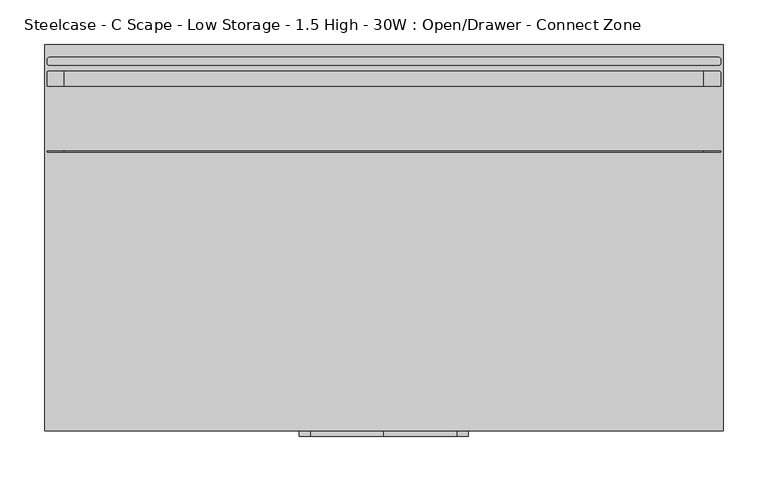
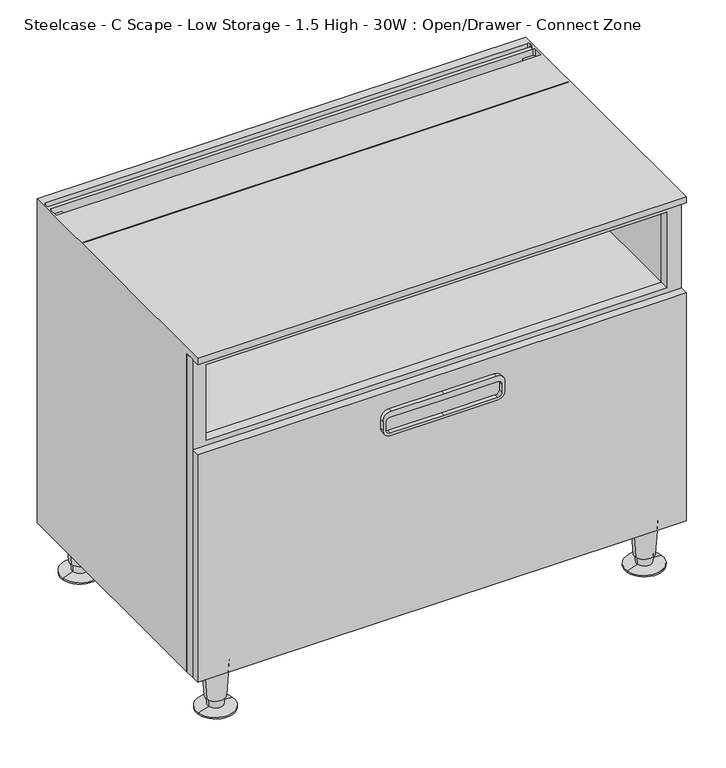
"""IFC4 building model written with IfcOpenShell, lengths in millimetres: furniture geometry, Steelcase - C Scape - Low Storage - 1.5 High - 30W : Open/Drawer - Connect Zone."""

from ifc_helpers import new_model, si_unit, point, frame, frame_2d, origin, place, context, project, spatial, polyline, circle_curve, trimmed, segment, composite_curve, outline, extrude, source, transform, mapped, element, save
from ifc_brep_helpers import plane_surface, cylinder_surface, revolved_surface, advanced_brep


def steelcase_c_scape_low_storage_1_5_high_30w_open_drawer_f43327ec(model_context):
    return source(origin(), model_context, "Body", "SolidModel", [
        extrude(outline(polyline([(599.4499291, 0.0), (76.2, 0.0), (76.2, 760.73), (599.4499291, 760.73), (599.4499291, 320.0585382), (599.4499291, 0.0)]), holes=[polyline([(458.7875121, 21.3382324), (582.9399291, 21.3382324), (582.9399291, 738.7617285), (458.7875121, 738.7617285), (458.7875121, 21.3382324)]), polyline([(436.841904, 21.3256814), (436.841904, 738.7617285), (92.7100024, 738.7617285), (92.7100024, 21.3256814), (436.841904, 21.3256814)])]), frame((0.0, -419.3540543, 0.0), z_axis=(0.0, 1.0, 0.0), x_axis=(0.0, 0.0, 1.0)), (0.0, 0.0, 1.0), 14.9860039),
        extrude(outline(composite_curve([segment(trimmed(circle_curve(frame_2d((409.5749879, 297.8147442)), 12.7), [point((422.2749879, 297.8147442))], [point((409.5749879, 285.1147442))], False, "CARTESIAN"), True, "CONTINUOUS"), segment(polyline([(409.5749879, 285.1147442), (394.970017, 285.1147442)]), True, "CONTINUOUS"), segment(trimmed(circle_curve(frame_2d((394.970017, 297.8147442)), 12.7), [point((394.970017, 285.1147442))], [point((382.270017, 297.8147442))], False, "CARTESIAN"), True, "CONTINUOUS"), segment(polyline([(382.270017, 297.8147442), (382.270017, 380.0475), (382.270017, 462.2802558)]), True, "CONTINUOUS"), segment(trimmed(circle_curve(frame_2d((394.970017, 462.2802558)), 12.7), [point((382.270017, 462.2802558))], [point((394.970017, 474.9802558))], False, "CARTESIAN"), True, "CONTINUOUS"), segment(polyline([(394.970017, 474.9802558), (409.5749879, 474.9802558)]), True, "CONTINUOUS"), segment(trimmed(circle_curve(frame_2d((409.5749879, 462.2802558)), 12.7), [point((409.5749879, 474.9802558))], [point((422.2749879, 462.2802558))], False, "CARTESIAN"), True, "CONTINUOUS"), segment(polyline([(422.2749879, 462.2802558), (422.2749879, 380.0475), (422.2749879, 297.8147442)]), True, "CONTINUOUS")], self_intersect=False), holes=[composite_curve([segment(trimmed(circle_curve(frame_2d((406.1460063, 296.2923565)), 6.35), [point((406.1460063, 289.9423565))], [point((412.4960063, 296.2923565))], True, "CARTESIAN"), True, "CONTINUOUS"), segment(polyline([(412.4960063, 296.2923565), (412.4960063, 380.0475), (412.4960063, 463.8026435)]), True, "CONTINUOUS"), segment(trimmed(circle_curve(frame_2d((406.1460063, 463.8026435)), 6.35), [point((412.4960063, 463.8026435))], [point((406.1460063, 470.1526435))], True, "CARTESIAN"), True, "CONTINUOUS"), segment(polyline([(406.1460063, 470.1526435), (393.4459942, 470.1526435)]), True, "CONTINUOUS"), segment(trimmed(circle_curve(frame_2d((393.4459942, 463.8026435)), 6.35), [point((393.4459942, 470.1526435))], [point((387.0959942, 463.8026435))], True, "CARTESIAN"), True, "CONTINUOUS"), segment(polyline([(387.0959942, 463.8026435), (387.0959942, 380.0475), (387.0959942, 296.2923565)]), True, "CONTINUOUS"), segment(trimmed(circle_curve(frame_2d((393.4459942, 296.2923565)), 6.35), [point((387.0959942, 296.2923565))], [point((393.4459942, 289.9423565))], True, "CARTESIAN"), True, "CONTINUOUS"), segment(polyline([(393.4459942, 289.9423565), (406.1460063, 289.9423565)]), True, "CONTINUOUS")], self_intersect=False)]), frame((0.0, -439.42, 0.0), z_axis=(0.0, 1.0, 0.0), x_axis=(0.0, 0.0, 1.0)), (0.0, 0.0, 1.0), 6.35),
        advanced_brep(
        [(65.5422821, -397.1702762, 76.2), (27.8805432, -402.9325174, 76.2), (46.7114126, -400.0513968, 76.2), (61.5919341, -397.774679, 19.05), (31.8308912, -402.3281146, 19.05), (59.1623471, -398.1464055, 19.05), (34.2604781, -401.9563882, 19.05), (58.4735776, -398.2517871, 5.7545598), (34.9492476, -401.8510065, 5.7545598), (75.8224611, -395.5974102, 2.5119506), (17.6003641, -404.5053834, 2.5119506), (75.8224611, -395.5974102, 0.0), (17.6003641, -404.5053834, 0.0), (46.7114126, -400.0513968, 0.0)],
        [
            (0, 1, circle_curve(frame((46.7114126, -400.0513968, 76.2), z_axis=(0.0, 0.0, 1.0), x_axis=(0.0, -1.0, 0.0)), 19.05)),
            (1, 2),
            (2, 0),
            (1, 0, circle_curve(frame((46.7114126, -400.0513968, 76.2), z_axis=(0.0, 0.0, 1.0), x_axis=(0.0, -1.0, 0.0)), 19.05)),
            (3, 4, circle_curve(frame((46.7114126, -400.0513968, 19.05), z_axis=(0.0, 0.0, 1.0), x_axis=(0.0, -1.0, 0.0)), 15.0536827)),
            (4, 1),
            (0, 3),
            (4, 3, circle_curve(frame((46.7114126, -400.0513968, 19.05), z_axis=(0.0, 0.0, 1.0), x_axis=(0.0, -1.0, 0.0)), 15.0536827)),
            (5, 6, circle_curve(frame((46.7114126, -400.0513968, 19.05), z_axis=(0.0, 0.0, 1.0), x_axis=(0.0, -1.0, 0.0)), 12.5958232)),
            (6, 4),
            (3, 5),
            (6, 5, circle_curve(frame((46.7114126, -400.0513968, 19.05), z_axis=(0.0, 0.0, 1.0), x_axis=(0.0, -1.0, 0.0)), 12.5958232)),
            (7, 8, circle_curve(frame((46.7114126, -400.0513968, 5.7545598), z_axis=(0.0, 0.0, 1.0), x_axis=(0.0, -1.0, 0.0)), 11.8990387)),
            (8, 6),
            (5, 7),
            (8, 7, circle_curve(frame((46.7114126, -400.0513968, 5.7545598), z_axis=(0.0, 0.0, 1.0), x_axis=(0.0, -1.0, 0.0)), 11.8990387)),
            (9, 10, circle_curve(frame((46.7114126, -400.0513968, 2.5119506), z_axis=(0.0, 0.0, 1.0), x_axis=(0.0, -1.0, 0.0)), 29.4498071)),
            (10, 8),
            (7, 9),
            (10, 9, circle_curve(frame((46.7114126, -400.0513968, 2.5119506), z_axis=(0.0, 0.0, 1.0), x_axis=(0.0, -1.0, 0.0)), 29.4498071)),
            (11, 12, circle_curve(frame((46.7114126, -400.0513968, 0.0), z_axis=(0.0, 0.0, 1.0), x_axis=(0.0, -1.0, 0.0)), 29.4498071)),
            (12, 10),
            (9, 11),
            (12, 11, circle_curve(frame((46.7114126, -400.0513968, 0.0), z_axis=(0.0, 0.0, 1.0), x_axis=(0.0, -1.0, 0.0)), 29.4498071)),
            (13, 12),
            (11, 13),
        ],
        [
            plane_surface(frame((46.7114126, -400.0513968, 76.2), z_axis=(0.0, 0.0, 1.0), x_axis=(0.0, -1.0, 0.0))),
            revolved_surface(polyline([(46.7114126, -419.1013968, 76.2), (46.7114126, -415.1050795, 19.05)]), (46.7114126, -400.0513968, 25.4), (0.0, 0.0, -1.0)),
            plane_surface(frame((46.7114126, -400.0513968, 19.05), z_axis=(0.0, 0.0, -1.0), x_axis=(0.0, -1.0, 0.0))),
            revolved_surface(polyline([(46.7114126, -412.64722, 19.05), (46.7114126, -411.9504355, 5.7545598)]), (46.7114126, -400.0513968, 25.4), (0.0, 0.0, -1.0)),
            revolved_surface(polyline([(46.7114126, -411.9504355, 5.7545598), (46.7114126, -429.5012039, 2.5119506)]), (46.7114126, -400.0513968, 25.4), (0.0, 0.0, -1.0)),
            cylinder_surface(frame((46.7114126, -400.0513968, 25.4), z_axis=(0.0, 0.0, -1.0), x_axis=(0.0, -1.0, 0.0)), 29.4498071),
            plane_surface(frame((46.7114126, -400.0513968, 0.0), z_axis=(0.0, 0.0, -1.0), x_axis=(0.0, -1.0, 0.0))),
        ],
        [
            (0, [[1, 2, 3]]),
            (0, [[4, -3, -2]]),
            (1, [[5, 6, -1, 7]]),
            (1, [[8, -7, -4, -6]]),
            (2, [[9, 10, -5, 11]]),
            (2, [[12, -11, -8, -10]]),
            (3, [[13, 14, -9, 15]]),
            (3, [[16, -15, -12, -14]]),
            (4, [[17, 18, -13, 19]]),
            (4, [[20, -19, -16, -18]]),
            (5, [[21, 22, -17, 23]]),
            (5, [[24, -23, -20, -22]]),
            (6, [[25, -21, 26]]),
            (6, [[-26, -24, -25]]),
        ],
    ),
        advanced_brep(
        [(733.4598695, -397.1702762, 76.2), (695.7981305, -402.9325174, 76.2), (714.629, -400.0513968, 76.2), (729.5095214, -397.774679, 19.05), (699.7484786, -402.3281146, 19.05), (727.0799345, -398.1464055, 19.05), (702.1780655, -401.9563882, 19.05), (726.391165, -398.2517871, 5.7545598), (702.866835, -401.8510065, 5.7545598), (743.7400485, -395.5974102, 2.5119506), (685.5179515, -404.5053834, 2.5119506), (743.7400485, -395.5974102, 0.0), (685.5179515, -404.5053834, 0.0), (714.629, -400.0513968, 0.0)],
        [
            (0, 1, circle_curve(frame((714.629, -400.0513968, 76.2), z_axis=(0.0, 0.0, 1.0), x_axis=(0.0, -1.0, 0.0)), 19.05)),
            (1, 2),
            (2, 0),
            (1, 0, circle_curve(frame((714.629, -400.0513968, 76.2), z_axis=(0.0, 0.0, 1.0), x_axis=(0.0, -1.0, 0.0)), 19.05)),
            (3, 4, circle_curve(frame((714.629, -400.0513968, 19.05), z_axis=(0.0, 0.0, 1.0), x_axis=(0.0, -1.0, 0.0)), 15.0536827)),
            (4, 1),
            (0, 3),
            (4, 3, circle_curve(frame((714.629, -400.0513968, 19.05), z_axis=(0.0, 0.0, 1.0), x_axis=(0.0, -1.0, 0.0)), 15.0536827)),
            (5, 6, circle_curve(frame((714.629, -400.0513968, 19.05), z_axis=(0.0, 0.0, 1.0), x_axis=(0.0, -1.0, 0.0)), 12.5958232)),
            (6, 4),
            (3, 5),
            (6, 5, circle_curve(frame((714.629, -400.0513968, 19.05), z_axis=(0.0, 0.0, 1.0), x_axis=(0.0, -1.0, 0.0)), 12.5958232)),
            (7, 8, circle_curve(frame((714.629, -400.0513968, 5.7545598), z_axis=(0.0, 0.0, 1.0), x_axis=(0.0, -1.0, 0.0)), 11.8990387)),
            (8, 6),
            (5, 7),
            (8, 7, circle_curve(frame((714.629, -400.0513968, 5.7545598), z_axis=(0.0, 0.0, 1.0), x_axis=(0.0, -1.0, 0.0)), 11.8990387)),
            (9, 10, circle_curve(frame((714.629, -400.0513968, 2.5119506), z_axis=(0.0, 0.0, 1.0), x_axis=(0.0, -1.0, 0.0)), 29.4498071)),
            (10, 8),
            (7, 9),
            (10, 9, circle_curve(frame((714.629, -400.0513968, 2.5119506), z_axis=(0.0, 0.0, 1.0), x_axis=(0.0, -1.0, 0.0)), 29.4498071)),
            (11, 12, circle_curve(frame((714.629, -400.0513968, 0.0), z_axis=(0.0, 0.0, 1.0), x_axis=(0.0, -1.0, 0.0)), 29.4498071)),
            (12, 10),
            (9, 11),
            (12, 11, circle_curve(frame((714.629, -400.0513968, 0.0), z_axis=(0.0, 0.0, 1.0), x_axis=(0.0, -1.0, 0.0)), 29.4498071)),
            (13, 12),
            (11, 13),
        ],
        [
            plane_surface(frame((714.629, -400.0513968, 76.2), z_axis=(0.0, 0.0, 1.0), x_axis=(0.0, -1.0, 0.0))),
            revolved_surface(polyline([(714.629, -419.1013968, 76.2), (714.629, -415.1050795, 19.05)]), (714.629, -400.0513968, 25.4), (0.0, 0.0, -1.0)),
            plane_surface(frame((714.629, -400.0513968, 19.05), z_axis=(0.0, 0.0, -1.0), x_axis=(0.0, -1.0, 0.0))),
            revolved_surface(polyline([(714.629, -412.64722, 19.05), (714.629, -411.9504355, 5.7545598)]), (714.629, -400.0513968, 25.4), (0.0, 0.0, -1.0)),
            revolved_surface(polyline([(714.629, -411.9504355, 5.7545598), (714.629, -429.5012039, 2.5119506)]), (714.629, -400.0513968, 25.4), (0.0, 0.0, -1.0)),
            cylinder_surface(frame((714.629, -400.0513968, 25.4), z_axis=(0.0, 0.0, -1.0), x_axis=(0.0, -1.0, 0.0)), 29.4498071),
            plane_surface(frame((714.629, -400.0513968, 0.0), z_axis=(0.0, 0.0, -1.0), x_axis=(0.0, -1.0, 0.0))),
        ],
        [
            (0, [[1, 2, 3]]),
            (0, [[4, -3, -2]]),
            (1, [[5, 6, -1, 7]]),
            (1, [[8, -7, -4, -6]]),
            (2, [[9, 10, -5, 11]]),
            (2, [[12, -11, -8, -10]]),
            (3, [[13, 14, -9, 15]]),
            (3, [[16, -15, -12, -14]]),
            (4, [[17, 18, -13, 19]]),
            (4, [[20, -19, -16, -18]]),
            (5, [[21, 22, -17, 23]]),
            (5, [[24, -23, -20, -22]]),
            (6, [[25, -21, 26]]),
            (6, [[-26, -24, -25]]),
        ],
    ),
        advanced_brep(
        [(733.4598695, -31.5218435, 76.2), (695.7981305, -37.2840847, 76.2), (714.629, -34.4029641, 76.2), (729.5095214, -32.1262463, 19.05), (699.7484786, -36.6796819, 19.05), (727.0799345, -32.4979728, 19.05), (702.1780655, -36.3079555, 19.05), (726.391165, -32.6033544, 5.7545598), (702.866835, -36.2025738, 5.7545598), (743.7400485, -29.9489775, 2.5119506), (685.5179515, -38.8569507, 2.5119506), (743.7400485, -29.9489775, 0.0), (685.5179515, -38.8569507, 0.0), (714.629, -34.4029641, 0.0)],
        [
            (0, 1, circle_curve(frame((714.629, -34.4029641, 76.2), z_axis=(0.0, 0.0, 1.0), x_axis=(0.0, -1.0, 0.0)), 19.05)),
            (1, 2),
            (2, 0),
            (1, 0, circle_curve(frame((714.629, -34.4029641, 76.2), z_axis=(0.0, 0.0, 1.0), x_axis=(0.0, -1.0, 0.0)), 19.05)),
            (3, 4, circle_curve(frame((714.629, -34.4029641, 19.05), z_axis=(0.0, 0.0, 1.0), x_axis=(0.0, -1.0, 0.0)), 15.0536827)),
            (4, 1),
            (0, 3),
            (4, 3, circle_curve(frame((714.629, -34.4029641, 19.05), z_axis=(0.0, 0.0, 1.0), x_axis=(0.0, -1.0, 0.0)), 15.0536827)),
            (5, 6, circle_curve(frame((714.629, -34.4029641, 19.05), z_axis=(0.0, 0.0, 1.0), x_axis=(0.0, -1.0, 0.0)), 12.5958232)),
            (6, 4),
            (3, 5),
            (6, 5, circle_curve(frame((714.629, -34.4029641, 19.05), z_axis=(0.0, 0.0, 1.0), x_axis=(0.0, -1.0, 0.0)), 12.5958232)),
            (7, 8, circle_curve(frame((714.629, -34.4029641, 5.7545598), z_axis=(0.0, 0.0, 1.0), x_axis=(0.0, -1.0, 0.0)), 11.8990387)),
            (8, 6),
            (5, 7),
            (8, 7, circle_curve(frame((714.629, -34.4029641, 5.7545598), z_axis=(0.0, 0.0, 1.0), x_axis=(0.0, -1.0, 0.0)), 11.8990387)),
            (9, 10, circle_curve(frame((714.629, -34.4029641, 2.5119506), z_axis=(0.0, 0.0, 1.0), x_axis=(0.0, -1.0, 0.0)), 29.4498071)),
            (10, 8),
            (7, 9),
            (10, 9, circle_curve(frame((714.629, -34.4029641, 2.5119506), z_axis=(0.0, 0.0, 1.0), x_axis=(0.0, -1.0, 0.0)), 29.4498071)),
            (11, 12, circle_curve(frame((714.629, -34.4029641, 0.0), z_axis=(0.0, 0.0, 1.0), x_axis=(0.0, -1.0, 0.0)), 29.4498071)),
            (12, 10),
            (9, 11),
            (12, 11, circle_curve(frame((714.629, -34.4029641, 0.0), z_axis=(0.0, 0.0, 1.0), x_axis=(0.0, -1.0, 0.0)), 29.4498071)),
            (13, 12),
            (11, 13),
        ],
        [
            plane_surface(frame((714.629, -34.4029641, 76.2), z_axis=(0.0, 0.0, 1.0), x_axis=(0.0, -1.0, 0.0))),
            revolved_surface(polyline([(714.629, -53.4529641, 76.2), (714.629, -49.4566468, 19.05)]), (714.629, -34.4029641, 25.4), (0.0, 0.0, -1.0)),
            plane_surface(frame((714.629, -34.4029641, 19.05), z_axis=(0.0, 0.0, -1.0), x_axis=(0.0, -1.0, 0.0))),
            revolved_surface(polyline([(714.629, -46.9987873, 19.05), (714.629, -46.3020028, 5.7545598)]), (714.629, -34.4029641, 25.4), (0.0, 0.0, -1.0)),
            revolved_surface(polyline([(714.629, -46.3020028, 5.7545598), (714.629, -63.8527712, 2.5119506)]), (714.629, -34.4029641, 25.4), (0.0, 0.0, -1.0)),
            cylinder_surface(frame((714.629, -34.4029641, 25.4), z_axis=(0.0, 0.0, -1.0), x_axis=(0.0, -1.0, 0.0)), 29.4498071),
            plane_surface(frame((714.629, -34.4029641, 0.0), z_axis=(0.0, 0.0, -1.0), x_axis=(0.0, -1.0, 0.0))),
        ],
        [
            (0, [[1, 2, 3]]),
            (0, [[4, -3, -2]]),
            (1, [[5, 6, -1, 7]]),
            (1, [[8, -7, -4, -6]]),
            (2, [[9, 10, -5, 11]]),
            (2, [[12, -11, -8, -10]]),
            (3, [[13, 14, -9, 15]]),
            (3, [[16, -15, -12, -14]]),
            (4, [[17, 18, -13, 19]]),
            (4, [[20, -19, -16, -18]]),
            (5, [[21, 22, -17, 23]]),
            (5, [[24, -23, -20, -22]]),
            (6, [[25, -21, 26]]),
            (6, [[-26, -24, -25]]),
        ],
    ),
        advanced_brep(
        [(65.5422821, -31.5218435, 76.2), (27.8805432, -37.2840847, 76.2), (46.7114126, -34.4029641, 76.2), (61.5919341, -32.1262463, 19.05), (31.8308912, -36.6796819, 19.05), (59.1623471, -32.4979728, 19.05), (34.2604781, -36.3079555, 19.05), (58.4735776, -32.6033544, 5.7545598), (34.9492476, -36.2025738, 5.7545598), (75.8224611, -29.9489775, 2.5119506), (17.6003641, -38.8569507, 2.5119506), (75.8224611, -29.9489775, 0.0), (17.6003641, -38.8569507, 0.0), (46.7114126, -34.4029641, 0.0)],
        [
            (0, 1, circle_curve(frame((46.7114126, -34.4029641, 76.2), z_axis=(0.0, 0.0, 1.0), x_axis=(0.0, -1.0, 0.0)), 19.05)),
            (1, 2),
            (2, 0),
            (1, 0, circle_curve(frame((46.7114126, -34.4029641, 76.2), z_axis=(0.0, 0.0, 1.0), x_axis=(0.0, -1.0, 0.0)), 19.05)),
            (3, 4, circle_curve(frame((46.7114126, -34.4029641, 19.05), z_axis=(0.0, 0.0, 1.0), x_axis=(0.0, -1.0, 0.0)), 15.0536827)),
            (4, 1),
            (0, 3),
            (4, 3, circle_curve(frame((46.7114126, -34.4029641, 19.05), z_axis=(0.0, 0.0, 1.0), x_axis=(0.0, -1.0, 0.0)), 15.0536827)),
            (5, 6, circle_curve(frame((46.7114126, -34.4029641, 19.05), z_axis=(0.0, 0.0, 1.0), x_axis=(0.0, -1.0, 0.0)), 12.5958232)),
            (6, 4),
            (3, 5),
            (6, 5, circle_curve(frame((46.7114126, -34.4029641, 19.05), z_axis=(0.0, 0.0, 1.0), x_axis=(0.0, -1.0, 0.0)), 12.5958232)),
            (7, 8, circle_curve(frame((46.7114126, -34.4029641, 5.7545598), z_axis=(0.0, 0.0, 1.0), x_axis=(0.0, -1.0, 0.0)), 11.8990387)),
            (8, 6),
            (5, 7),
            (8, 7, circle_curve(frame((46.7114126, -34.4029641, 5.7545598), z_axis=(0.0, 0.0, 1.0), x_axis=(0.0, -1.0, 0.0)), 11.8990387)),
            (9, 10, circle_curve(frame((46.7114126, -34.4029641, 2.5119506), z_axis=(0.0, 0.0, 1.0), x_axis=(0.0, -1.0, 0.0)), 29.4498071)),
            (10, 8),
            (7, 9),
            (10, 9, circle_curve(frame((46.7114126, -34.4029641, 2.5119506), z_axis=(0.0, 0.0, 1.0), x_axis=(0.0, -1.0, 0.0)), 29.4498071)),
            (11, 12, circle_curve(frame((46.7114126, -34.4029641, 0.0), z_axis=(0.0, 0.0, 1.0), x_axis=(0.0, -1.0, 0.0)), 29.4498071)),
            (12, 10),
            (9, 11),
            (12, 11, circle_curve(frame((46.7114126, -34.4029641, 0.0), z_axis=(0.0, 0.0, 1.0), x_axis=(0.0, -1.0, 0.0)), 29.4498071)),
            (13, 12),
            (11, 13),
        ],
        [
            plane_surface(frame((46.7114126, -34.4029641, 76.2), z_axis=(0.0, 0.0, 1.0), x_axis=(0.0, -1.0, 0.0))),
            revolved_surface(polyline([(46.7114126, -53.4529641, 76.2), (46.7114126, -49.4566468, 19.05)]), (46.7114126, -34.4029641, 25.4), (0.0, 0.0, -1.0)),
            plane_surface(frame((46.7114126, -34.4029641, 19.05), z_axis=(0.0, 0.0, -1.0), x_axis=(0.0, -1.0, 0.0))),
            revolved_surface(polyline([(46.7114126, -46.9987873, 19.05), (46.7114126, -46.3020028, 5.7545598)]), (46.7114126, -34.4029641, 25.4), (0.0, 0.0, -1.0)),
            revolved_surface(polyline([(46.7114126, -46.3020028, 5.7545598), (46.7114126, -63.8527712, 2.5119506)]), (46.7114126, -34.4029641, 25.4), (0.0, 0.0, -1.0)),
            cylinder_surface(frame((46.7114126, -34.4029641, 25.4), z_axis=(0.0, 0.0, -1.0), x_axis=(0.0, -1.0, 0.0)), 29.4498071),
            plane_surface(frame((46.7114126, -34.4029641, 0.0), z_axis=(0.0, 0.0, -1.0), x_axis=(0.0, -1.0, 0.0))),
        ],
        [
            (0, [[1, 2, 3]]),
            (0, [[4, -3, -2]]),
            (1, [[5, 6, -1, 7]]),
            (1, [[8, -7, -4, -6]]),
            (2, [[9, 10, -5, 11]]),
            (2, [[12, -11, -8, -10]]),
            (3, [[13, 14, -9, 15]]),
            (3, [[16, -15, -12, -14]]),
            (4, [[17, 18, -13, 19]]),
            (4, [[20, -19, -16, -18]]),
            (5, [[21, 22, -17, 23]]),
            (5, [[24, -23, -20, -22]]),
            (6, [[25, -21, 26]]),
            (6, [[-26, -24, -25]]),
        ],
    ),
        advanced_brep(
        [(757.9272317, -120.6444193, 609.6), (757.9272317, -119.3775195, 609.6), (757.9272317, -119.3775195, 599.4499291), (757.9272317, -120.6444193, 599.4499291), (757.9272317, -46.4703418, 609.6), (757.9272317, -32.274699, 609.6), (757.9272317, -32.274699, 599.4499291), (757.9272317, -46.4703418, 599.4499291), (757.9272317, -20.3138654, 609.6), (757.9272317, -17.0388453, 609.6), (757.9272317, -17.0388453, 599.4499291), (757.9272317, -20.3138654, 599.4499291), (760.73, 0.0055807, 609.6), (760.73, -433.07, 609.6), (760.73, -433.07, 599.4499291), (760.73, -404.3680504, 599.4499291), (760.73, -404.3680504, 76.2), (760.73, 0.0, 76.2), (0.0, -433.07, 609.6), (-0.012551, 0.0055807, 609.6), (755.2308823, -29.5783496, 609.6), (2.7826272, -46.4703418, 609.6), (2.7826272, -32.0458511, 609.6), (5.2501287, -29.5783496, 609.6), (754.9507358, -23.2903613, 609.6), (5.5670648, -23.2903613, 609.6), (2.7826272, -20.5059237, 609.6), (2.7826272, -17.0388453, 609.6), (5.4794022, -14.3420703, 609.6), (755.2304567, -14.3420703, 609.6), (2.7826272, -119.3775195, 609.6), (2.7826272, -120.6444193, 609.6), (0.0, 0.0055807, 76.2), (495.6775189, 0.0055807, 466.2677968), (264.4174811, 0.0055807, 466.2677968), (264.4174811, 0.0055807, 432.6382043), (380.0475, 0.0055807, 432.6382043), (495.6775189, 0.0055807, 432.6382043), (495.6775189, -9.5194193, 466.2677968), (264.4174811, -9.5194193, 466.2677968), (495.6775189, -9.5194193, 450.8499879), (264.4174811, -9.5194193, 450.8499879), (5.2501287, -29.5783496, 599.4499291), (21.3256814, -29.5783496, 599.4499291), (21.3256814, -29.5783496, 458.7875121), (738.7491775, -29.5783496, 458.7875121), (738.7491775, -29.5783496, 599.4499291), (755.2308823, -29.5783496, 599.4499291), (738.7491775, -119.3775195, 599.4499291), (21.3256814, -119.3775195, 599.4499291), (21.3256814, -46.4703418, 599.4499291), (738.7491775, -46.4703418, 599.4499291), (754.9507358, -23.2903613, 599.4499291), (5.5670648, -23.2903613, 599.4499291), (2.7826272, -20.5059237, 599.4499291), (2.7826272, -32.0458511, 599.4499291), (2.7826272, -46.4703418, 599.4499291), (2.7826272, -119.3775195, 599.4499291), (5.4794022, -14.3420703, 599.4499291), (755.2304567, -14.3420703, 599.4499291), (2.7826272, -17.0388453, 599.4499291), (21.3256814, -120.6444193, 599.4499291), (2.7826272, -120.6444193, 599.4499291), (738.7491775, -120.6444193, 599.4499291), (21.3256814, -404.3680504, 92.7100024), (738.7491775, -404.3680504, 92.7100024), (738.7491775, -9.5194193, 92.7100024), (21.3256814, -9.5194193, 92.7100024), (0.0, -404.3680504, 76.2), (0.0, -404.3680504, 599.4499291), (0.0, -433.07, 599.4499291), (738.7491775, -404.3680504, 599.4499291), (738.7491775, -404.3680504, 458.7875121), (21.3256814, -404.3680504, 458.7875121), (21.3256814, -404.3680504, 599.4499291), (21.3256814, -404.3680504, 450.8499879), (738.7491775, -404.3680504, 450.8499879), (21.3256814, -126.9863574, 599.4499291), (738.7491775, -126.9863574, 599.4499291), (21.3256814, -126.9863574, 458.7875121), (738.7491775, -126.9863574, 458.7875121), (738.7491775, -120.6444193, 458.7875121), (21.3256814, -120.6444193, 458.7875121), (21.3256814, -9.5194193, 450.8499879), (738.7491775, -9.5194193, 450.8499879), (495.6775189, -9.5194193, 432.6382043), (380.0475, -9.5194193, 432.6382043), (264.4174811, -9.5194193, 432.6382043)],
        [
            (0, 1),
            (1, 2),
            (2, 3),
            (3, 0),
            (4, 5),
            (5, 6),
            (6, 7),
            (7, 4),
            (8, 9),
            (9, 10),
            (10, 11),
            (11, 8),
            (12, 13),
            (13, 14),
            (14, 15),
            (15, 16),
            (16, 17),
            (17, 12),
            (18, 13),
            (12, 19),
            (19, 18),
            (20, 5, circle_curve(frame((755.2308823, -32.274699, 609.6), z_axis=(0.0, 0.0, -1.0), x_axis=(1.0, 0.0, 0.0)), 2.6963494)),
            (4, 21),
            (21, 22),
            (22, 23, circle_curve(frame((5.2501287, -32.0458511, 609.6), z_axis=(0.0, 0.0, -1.0), x_axis=(1.0, 0.0, 0.0)), 2.4675015)),
            (23, 20),
            (8, 24, circle_curve(frame((754.9507358, -20.3138654, 609.6), z_axis=(0.0, 0.0, -1.0), x_axis=(1.0, 0.0, 0.0)), 2.9764959)),
            (24, 25),
            (25, 26, circle_curve(frame((5.5670648, -20.5059237, 609.6), z_axis=(0.0, 0.0, -1.0), x_axis=(1.0, 0.0, 0.0)), 2.7844376)),
            (26, 27),
            (27, 28, circle_curve(frame((5.4794022, -17.0388453, 609.6), z_axis=(0.0, 0.0, -1.0), x_axis=(1.0, 0.0, 0.0)), 2.696775)),
            (28, 29),
            (29, 9, circle_curve(frame((755.2304567, -17.0388453, 609.6), z_axis=(0.0, 0.0, -1.0), x_axis=(1.0, 0.0, 0.0)), 2.696775)),
            (30, 1),
            (0, 31),
            (31, 30),
            (17, 32),
            (32, 19),
            (33, 34),
            (34, 35),
            (35, 36),
            (36, 37),
            (37, 33),
            (33, 38),
            (38, 39),
            (39, 34),
            (38, 40),
            (40, 41),
            (41, 39),
            (23, 42),
            (42, 43),
            (43, 44),
            (44, 45),
            (45, 46),
            (46, 47),
            (47, 20),
            (48, 49),
            (49, 50),
            (50, 51),
            (51, 48),
            (47, 6, circle_curve(frame((755.2308823, -32.274699, 599.4499291), z_axis=(0.0, 0.0, -1.0), x_axis=(1.0, 0.0, 0.0)), 2.6963494)),
            (11, 52, circle_curve(frame((754.9507358, -20.3138654, 599.4499291), z_axis=(0.0, 0.0, -1.0), x_axis=(1.0, 0.0, 0.0)), 2.9764959)),
            (52, 24),
            (52, 53),
            (53, 25),
            (53, 54, circle_curve(frame((5.5670648, -20.5059237, 599.4499291), z_axis=(0.0, 0.0, -1.0), x_axis=(1.0, 0.0, 0.0)), 2.7844376)),
            (54, 26),
            (22, 55),
            (55, 42, circle_curve(frame((5.2501287, -32.0458511, 599.4499291), z_axis=(0.0, 0.0, -1.0), x_axis=(1.0, 0.0, 0.0)), 2.4675015)),
            (7, 51),
            (50, 56),
            (56, 21),
            (30, 57),
            (57, 49),
            (48, 2),
            (28, 58),
            (58, 59),
            (59, 29),
            (59, 10, circle_curve(frame((755.2304567, -17.0388453, 599.4499291), z_axis=(0.0, 0.0, -1.0), x_axis=(1.0, 0.0, 0.0)), 2.696775)),
            (27, 60),
            (60, 58, circle_curve(frame((5.4794022, -17.0388453, 599.4499291), z_axis=(0.0, 0.0, -1.0), x_axis=(1.0, 0.0, 0.0)), 2.696775)),
            (61, 49),
            (57, 62),
            (62, 61),
            (48, 63),
            (63, 3),
            (60, 54),
            (50, 43),
            (55, 56),
            (46, 51),
            (64, 65),
            (65, 66),
            (66, 67),
            (67, 64),
            (16, 68),
            (68, 32),
            (68, 69),
            (69, 70),
            (70, 18),
            (15, 71),
            (71, 72),
            (72, 73),
            (73, 74),
            (74, 69),
            (64, 75),
            (75, 76),
            (76, 65),
            (70, 14),
            (74, 77),
            (77, 78),
            (78, 71),
            (77, 79),
            (79, 80),
            (80, 78),
            (63, 81),
            (81, 82),
            (82, 61),
            (62, 31),
            (44, 82),
            (81, 45),
            (79, 73),
            (72, 80),
            (75, 83),
            (83, 41),
            (40, 84),
            (84, 76),
            (67, 83),
            (84, 66),
            (85, 86),
            (86, 87),
            (87, 41),
            (40, 85),
            (37, 85),
            (36, 86),
            (35, 87),
        ],
        [
            plane_surface(frame((757.9272317, -120.6444193, 609.6), z_axis=(-1.0, 0.0, 0.0), x_axis=(0.0, -1.4185860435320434e-12, 1.0))),
            plane_surface(frame((760.73, -120.6444193, 609.6), z_axis=(1.0, 0.0, 0.0), x_axis=(0.0, 1.4185860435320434e-12, -1.0))),
            plane_surface(frame((757.9272317, -120.6444193, 609.6), z_axis=(0.0, 0.0, 1.0), x_axis=(1.0, 0.0, 0.0))),
            plane_surface(frame((757.9272317, 0.0055807, 609.6), z_axis=(0.0, 1.0, 0.0), x_axis=(1.0, 0.0, 0.0))),
            plane_surface(frame((757.9272317, 0.0055807, 466.2677968), z_axis=(0.0, 0.0, -1.0), x_axis=(1.0, 0.0, 0.0))),
            plane_surface(frame((757.9272317, -9.5194193, 466.2677968), z_axis=(0.0, 1.0, 0.0), x_axis=(1.0, 0.0, 0.0))),
            plane_surface(frame((757.9272317, -29.5783496, 458.7875121), z_axis=(0.0, -1.0, 0.0), x_axis=(1.0, 0.0, 0.0))),
            plane_surface(frame((757.9272317, -29.5783496, 599.4499291), z_axis=(0.0, 0.0, -1.0), x_axis=(1.0, 0.0, 0.0))),
            revolved_surface(polyline([(757.9272317, -32.274699, 599.4499291), (757.9272317, -32.274699, 609.6)]), (755.2308823, -32.274699, 599.4499291), (0.0, 0.0, -1.0)),
            revolved_surface(polyline([(757.9272317, -20.3138654, 599.4499291), (757.9272317, -20.3138654, 609.6)]), (754.9507358, -20.3138654, 599.4499291), (0.0, 0.0, -1.0)),
            plane_surface(frame((754.9507358, -23.2903613, 609.6), z_axis=(0.0, 1.0, 0.0), x_axis=(0.0, 0.0, -1.0))),
            revolved_surface(polyline([(8.3515024, -20.5059237, 599.4499291), (8.3515024, -20.5059237, 609.6)]), (5.5670648, -20.5059237, 599.4499291), (0.0, 0.0, -1.0)),
            revolved_surface(polyline([(7.7176302, -32.0458511, 599.4499291), (7.7176302, -32.0458511, 609.6)]), (5.2501287, -32.0458511, 599.4499291), (0.0, 0.0, -1.0)),
            plane_surface(frame((757.9272317, -46.4703418, 609.6), z_axis=(0.0, 1.0, 0.0), x_axis=(0.0, 0.0, -1.0))),
            plane_surface(frame((2.7826272, -119.3775195, 609.6), z_axis=(0.0, -1.0, 0.0), x_axis=(0.0, 0.0, -1.0))),
            plane_surface(frame((5.4794022, -14.3420703, 609.6), z_axis=(0.0, -1.0, 0.0), x_axis=(0.0, 0.0, -1.0))),
            revolved_surface(polyline([(757.9272317, -17.0388453, 599.4499291), (757.9272317, -17.0388453, 609.6)]), (755.2304567, -17.0388453, 41.6295811), (0.0, 0.0, -1.0)),
            revolved_surface(polyline([(8.1761772, -17.0388453, 599.4499291), (8.1761772, -17.0388453, 609.6)]), (5.4794022, -17.0388453, 41.6295811), (0.0, 0.0, -1.0)),
            plane_surface(frame((757.9272317, 0.0055807, 599.4499291), z_axis=(0.0, 0.0, 1.0), x_axis=(-1.0, 0.0, 0.0))),
            plane_surface(frame((0.0, 0.0, 92.7100024), z_axis=(0.0, 0.0, 1.0), x_axis=(-1.0, 0.0, 0.0))),
            plane_surface(frame((0.0, 0.0, 76.2), z_axis=(0.0, 0.0, -1.0), x_axis=(1.0, 0.0, 0.0))),
            plane_surface(frame((0.0, 0.0, 92.7100024), z_axis=(-1.0, 0.0, 0.0), x_axis=(0.0, 0.0, -1.0))),
            plane_surface(frame((0.0, -404.3680504, 92.7100024), z_axis=(0.0, -1.0, 0.0), x_axis=(0.0, 0.0, -1.0))),
            plane_surface(frame((760.73, -433.07, 609.6), z_axis=(0.0, -1.0, 0.0), x_axis=(-1.0, 0.0, 0.0))),
            plane_surface(frame((760.73, -433.07, 599.4499291), z_axis=(0.0, 0.0, -1.0), x_axis=(-1.0, 0.0, 0.0))),
            plane_surface(frame((760.73, -126.9863574, 599.4499291), z_axis=(0.0, -1.0, 0.0), x_axis=(-1.0, 0.0, 0.0))),
            plane_surface(frame((760.73, -120.6444193, 457.1999955), z_axis=(0.0, 1.0, 0.0), x_axis=(-1.0, 0.0, 0.0))),
            plane_surface(frame((0.0, -9.5194193, 458.7875121), z_axis=(0.0, 0.0, 1.0), x_axis=(-1.0, 0.0, 0.0))),
            plane_surface(frame((0.0, -9.5194193, 450.8499879), z_axis=(0.0, 0.0, -1.0), x_axis=(1.0, 0.0, 0.0))),
            plane_surface(frame((21.3256814, -404.3680504, 599.4499291), z_axis=(1.0, 0.0, 0.0), x_axis=(0.0, 0.0, -1.0))),
            plane_surface(frame((738.7491775, -9.5194193, 599.4499291), z_axis=(-1.0, 0.0, 0.0), x_axis=(0.0, 0.0, -1.0))),
            plane_surface(frame((2.7826272, -120.6444193, 599.4499291), z_axis=(1.0, 0.0, 0.0), x_axis=(0.0, 1.0, 0.0))),
            plane_surface(frame((495.6775189, -9.5194193, 459.9177968), z_axis=(0.0, -1.0, 0.0), x_axis=(0.0, 0.0, -1.0))),
            plane_surface(frame((495.6775189, -9.5194193, 466.2677968), z_axis=(-1.0, 0.0, 0.0), x_axis=(0.0, 1.0, 0.0))),
            plane_surface(frame((495.6775189, -9.5194193, 432.6382043), z_axis=(0.0, 0.0, 1.0), x_axis=(0.0, 1.0, 0.0))),
            plane_surface(frame((380.0475, -9.5194193, 432.6382043), z_axis=(0.0, 0.0, 1.0), x_axis=(0.0, 1.0, 0.0))),
            plane_surface(frame((264.4174811, -9.5194193, 432.6382043), z_axis=(1.0, 0.0, 0.0), x_axis=(0.0, 1.0, 0.0))),
        ],
        [
            (0, [[1, 2, 3, 4]]),
            (0, [[5, 6, 7, 8]]),
            (0, [[9, 10, 11, 12]]),
            (1, [[13, 14, 15, 16, 17, 18]]),
            (2, [[19, -13, 20, 21], [22, -5, 23, 24, 25, 26], [27, 28, 29, 30, 31, 32, 33, -9], [34, -1, 35, 36]]),
            (3, [[-18, 37, 38, -20], [39, 40, 41, 42, 43]]),
            (4, [[-39, 44, 45, 46]]),
            (5, [[-45, 47, 48, 49]]),
            (6, [[-26, 50, 51, 52, 53, 54, 55, 56]]),
            (7, [[57, 58, 59, 60]]),
            (8, [[-22, -56, 61, -6]]),
            (9, [[-27, -12, 62, 63]]),
            (10, [[-28, -63, 64, 65]]),
            (11, [[-29, -65, 66, 67]]),
            (12, [[-25, 68, 69, -50]]),
            (13, [[-23, -8, 70, -59, 71, 72]]),
            (14, [[-34, 73, 74, -57, 75, -2]]),
            (15, [[-32, 76, 77, 78]]),
            (16, [[-33, -78, 79, -10]]),
            (17, [[-31, 80, 81, -76]]),
            (18, [[82, -74, 83, 84]]),
            (18, [[85, 86, -3, -75]]),
            (18, [[-11, -79, -77, -81, 87, -66, -64, -62]]),
            (18, [[88, -51, -69, 89, -71]]),
            (18, [[90, -70, -7, -61, -55]]),
            (19, [[91, 92, 93, 94]]),
            (20, [[-17, 95, 96, -37]]),
            (21, [[-38, -96, 97, 98, 99, -21]]),
            (22, [[-95, -16, 100, 101, 102, 103, 104, -97], [-91, 105, 106, 107]]),
            (23, [[-14, -19, -99, 108]]),
            (24, [[-108, -98, -104, 109, 110, 111, -100, -15]]),
            (25, [[-110, 112, 113, 114]]),
            (26, [[-4, -86, 115, 116, 117, -84, 118, -35]]),
            (27, [[-53, 119, -116, 120]]),
            (27, [[-113, 121, -102, 122]]),
            (28, [[-106, 123, 124, -48, 125, 126]]),
            (29, [[-103, -121, -112, -109]]),
            (29, [[-105, -94, 127, -123]]),
            (29, [[-88, -58, -82, -117, -119, -52]]),
            (30, [[-101, -111, -114, -122]]),
            (30, [[-107, -126, 128, -92]]),
            (30, [[-90, -54, -120, -115, -85, -60]]),
            (31, [[-24, -72, -89, -68]]),
            (31, [[-30, -67, -87, -80]]),
            (31, [[-36, -118, -83, -73]]),
            (32, [[129, 130, 131, -124, -127, -93, -128, -125, 132]]),
            (33, [[-43, 133, -132, -47, -44]]),
            (34, [[-129, -133, -42, 134]]),
            (35, [[-130, -134, -41, 135]]),
            (36, [[-40, -46, -49, -131, -135]]),
        ],
    ),
        extrude(outline(polyline([(760.73, -419.3540543), (760.73, -433.07), (0.0, -433.07), (0.0, -419.3540543), (760.73, -419.3540543)])), frame((0.0, 0.0, 76.2), z_axis=(0.0, 0.0, 1.0), x_axis=(1.0, 0.0, 0.0)), (0.0, 0.0, 1.0), 374.6499879),
    ])


if __name__ == "__main__":
    model = new_model("IFC4")
    model_context = context("Model", 3, world=origin())
    ifc_project = project(units=[si_unit("LENGTHUNIT", "METRE", prefix="MILLI")], contexts=[model_context])
    site = spatial("IfcSite", under=ifc_project)
    building = spatial("IfcBuilding", under=site)
    placement = place(None, origin())
    steelcase_c_scape_low_storage_1_5_high_30w_open_drawer_shape = steelcase_c_scape_low_storage_1_5_high_30w_open_drawer_f43327ec(model_context)
    element("IfcFurniture", 1, ObjectType="Steelcase - C Scape - Low Storage - 1.5 High - 30W : Open/Drawer - Connect Zone", at=placement, inside=building, context=model_context, shape_type="MappedRepresentation", body=[
        mapped(steelcase_c_scape_low_storage_1_5_high_30w_open_drawer_shape, transform((0.0, 0.0, 0.0), x_axis=(1.0, 0.0, 0.0), y_axis=(0.0, 1.0, 0.0), z_axis=(0.0, 0.0, 1.0))),
    ])
    save(model, "model.ifc")
